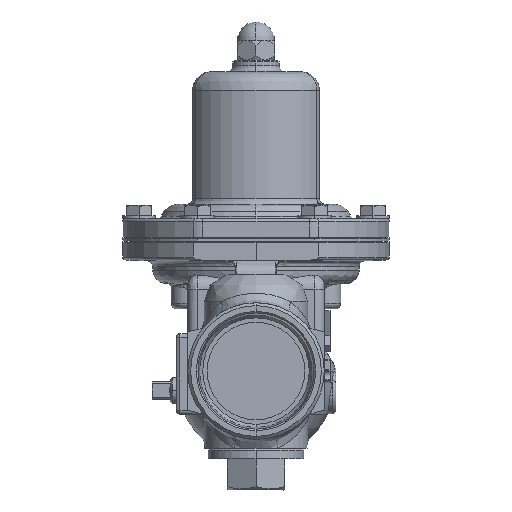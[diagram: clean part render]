
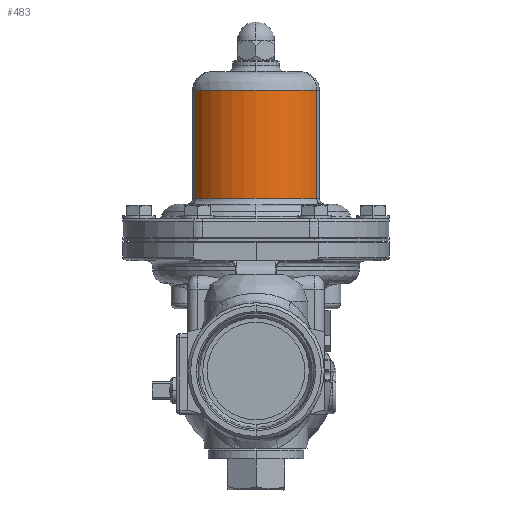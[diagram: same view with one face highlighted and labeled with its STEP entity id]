
A CAD part, left-side view. The second image highlights one B-rep face of the part: STEP entity #483.
In plain terms, the highlighted cylindrical face has radius 36.331 mm (diameter 72.662 mm), a partial arc.
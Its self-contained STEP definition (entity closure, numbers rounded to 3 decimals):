
#483=ADVANCED_FACE('',(#1531),#1530,.T.);
#1530=CYLINDRICAL_SURFACE('',#6406,36.331);
#1531=FACE_OUTER_BOUND('',#6407,.T.);
#6403=CARTESIAN_POINT('',(0.,0.,-914.5));
#6404=DIRECTION('',(0.,0.,-1.));
#6405=DIRECTION('',(-0.515,-0.857,0.));
#6406=AXIS2_PLACEMENT_3D('',#6403,#6404,#6405);
#6407=EDGE_LOOP('',(#11568,#11569,#11570,#11571));
#11568=ORIENTED_EDGE('',*,*,#13827,.T.);
#11569=ORIENTED_EDGE('',*,*,#13829,.T.);
#11570=ORIENTED_EDGE('',*,*,#13830,.F.);
#11571=ORIENTED_EDGE('',*,*,#13831,.T.);
#13827=EDGE_CURVE('',#15833,#15826,#15834,.T.);
#13829=EDGE_CURVE('',#15826,#15846,#15847,.T.);
#13830=EDGE_CURVE('',#15765,#15846,#15853,.T.);
#13831=EDGE_CURVE('',#15765,#15833,#15859,.T.);
#15765=VERTEX_POINT('',#23383);
#15826=VERTEX_POINT('',#23429);
#15833=VERTEX_POINT('',#23434);
#15834=LINE('',#23435,#23436);
#15846=VERTEX_POINT('',#23442);
#15847=CIRCLE('',#23446,36.331);
#15853=LINE('',#23447,#23448);
#15859=CIRCLE('',#23453,36.331);
#23383=CARTESIAN_POINT('',(-18.709,31.144,20.5));
#23429=CARTESIAN_POINT('',(-18.709,-31.144,76.));
#23434=CARTESIAN_POINT('',(-18.709,-31.144,20.5));
#23435=CARTESIAN_POINT('',(-18.709,-31.144,20.5));
#23436=VECTOR('',#23437,55.5);
#23437=DIRECTION('',(0.,0.,1.));
#23442=CARTESIAN_POINT('',(-18.709,31.144,76.));
#23443=CARTESIAN_POINT('',(0.,0.,76.));
#23444=DIRECTION('',(0.,0.,-1.));
#23445=DIRECTION('',(-0.515,0.857,0.));
#23446=AXIS2_PLACEMENT_3D('',#23443,#23444,#23445);
#23447=CARTESIAN_POINT('',(-18.709,31.144,20.5));
#23448=VECTOR('',#23449,55.5);
#23449=DIRECTION('',(0.,0.,1.));
#23450=CARTESIAN_POINT('',(0.,0.,20.5));
#23451=DIRECTION('',(0.,0.,1.));
#23452=DIRECTION('',(-0.515,0.857,0.));
#23453=AXIS2_PLACEMENT_3D('',#23450,#23451,#23452);
